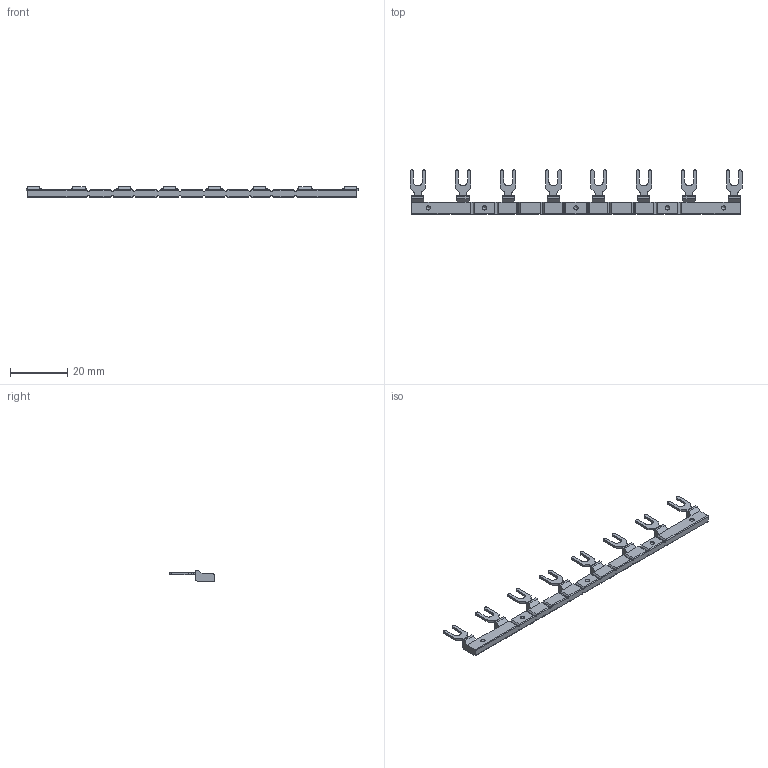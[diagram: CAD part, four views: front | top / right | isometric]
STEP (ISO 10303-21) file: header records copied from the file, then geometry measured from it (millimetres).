
FILE_DESCRIPTION(/* description */ (''),/* implementation_level */ '2;1');
FILE_NAME(/* name */ 'RF-SCP08F-8P.stp',/* time_stamp */ '2022-07-06T15:58:26+08:00',/* author */ (''),/* organization */ (''),/* preprocessor_version */ 'ST-DEVELOPER v16.7',/* originating_system */ 'SIEMENS PLM Software NX 12.0',/* authorisation */ '');
FILE_SCHEMA (('AUTOMOTIVE_DESIGN { 1 0 10303 214 3 1 1 1 }'));
Length unit declared in the file: millimetre
Products named in the file (1): RF-SCP08F-8P
Bounding box: 116 x 15.5 x 3.8 mm (x, y, z)
Volume: 1636.4 mm3; surface area: 2535.6 mm2
Topology: 1 solids, 1 shells, 308 faces, 891 edges, 593 vertices
Faces by surface type: plane 190, cylinder 108, cone 10
Full cylindrical faces by diameter (mm): 1.5 x10
Entity records: 11880 total; most frequent: CARTESIAN_POINT 1757, ORIENTED_EDGE 1716, DIRECTION 1692, EDGE_CURVE 858, LINE 642, VECTOR 642, VERTEX_POINT 590, AXIS2_PLACEMENT_3D 525
